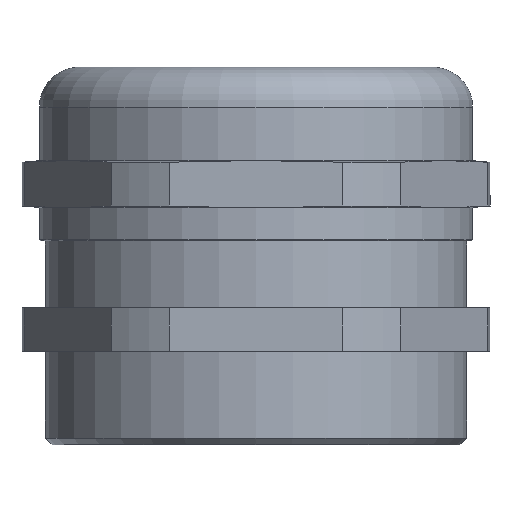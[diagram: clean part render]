
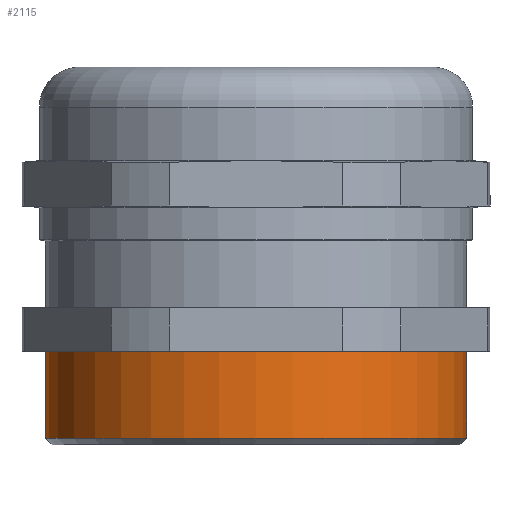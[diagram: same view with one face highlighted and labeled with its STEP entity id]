
A CAD part, left-side view. The second image highlights one B-rep face of the part: STEP entity #2115.
In plain terms, the highlighted cylindrical face has radius 31.5 mm (diameter 63 mm), a partial arc.
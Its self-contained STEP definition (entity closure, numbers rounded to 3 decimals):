
#584 = DIRECTION ( 'NONE',  ( 0., 1., 0. ) ) ;
#585 = DIRECTION ( 'NONE',  ( 0., 0., -1. ) ) ;
#586 = CARTESIAN_POINT ( 'NONE',  ( 0., 0., 0. ) ) ;
#587 = AXIS2_PLACEMENT_3D ( 'NONE', #586, #585, #584 ) ;
#589 = CYLINDRICAL_SURFACE ( 'NONE', #587, 31.5 ) ;
#590 = FACE_OUTER_BOUND ( 'NONE', #2116, .T. ) ;
#645 = DIRECTION ( 'NONE',  ( 0., 1., 0. ) ) ;
#646 = DIRECTION ( 'NONE',  ( 0., 0., -1. ) ) ;
#647 = CARTESIAN_POINT ( 'NONE',  ( 0., 0., 1. ) ) ;
#648 = AXIS2_PLACEMENT_3D ( 'NONE', #647, #646, #645 ) ;
#649 = CIRCLE ( 'NONE', #648, 31.5 ) ;
#651 = DIRECTION ( 'NONE',  ( 0., 1., 0. ) ) ;
#652 = DIRECTION ( 'NONE',  ( 0., 0., -1. ) ) ;
#653 = CARTESIAN_POINT ( 'NONE',  ( 0., 0., 14. ) ) ;
#654 = AXIS2_PLACEMENT_3D ( 'NONE', #653, #652, #651 ) ;
#655 = CIRCLE ( 'NONE', #654, 31.5 ) ;
#1425 = CARTESIAN_POINT ( 'NONE',  ( 0., 31.5, 14. ) ) ;
#1525 = LINE ( 'NONE', #1582, #1581 ) ;
#1573 = CARTESIAN_POINT ( 'NONE',  ( 0., -31.5, 14. ) ) ;
#1574 = DIRECTION ( 'NONE',  ( 0., 0., -1. ) ) ;
#1575 = VECTOR ( 'NONE', #1574, 1000. ) ;
#1576 = CARTESIAN_POINT ( 'NONE',  ( 0., -31.5, 0. ) ) ;
#1577 = LINE ( 'NONE', #1576, #1575 ) ;
#1578 = CARTESIAN_POINT ( 'NONE',  ( 0., -31.5, 1. ) ) ;
#1579 = CARTESIAN_POINT ( 'NONE',  ( 0., 31.5, 1. ) ) ;
#1580 = DIRECTION ( 'NONE',  ( 0., 0., -1. ) ) ;
#1581 = VECTOR ( 'NONE', #1580, 1000. ) ;
#1582 = CARTESIAN_POINT ( 'NONE',  ( 0., 31.5, 0. ) ) ;
#2096 = ORIENTED_EDGE ( 'NONE', *, *, #2643, .T. ) ;
#2097 = ORIENTED_EDGE ( 'NONE', *, *, #2141, .F. ) ;
#2115 = ADVANCED_FACE ( 'NONE', ( #590 ), #589, .T. ) ;
#2116 = EDGE_LOOP ( 'NONE', ( #2125, #2135, #2096, #2097 ) ) ;
#2125 = ORIENTED_EDGE ( 'NONE', *, *, #2648, .F. ) ;
#2131 = EDGE_CURVE ( 'NONE', #2650, #2574, #655, .T. ) ;
#2135 = ORIENTED_EDGE ( 'NONE', *, *, #2131, .T. ) ;
#2141 = EDGE_CURVE ( 'NONE', #2646, #2645, #649, .T. ) ;
#2574 = VERTEX_POINT ( 'NONE', #1425 ) ;
#2643 = EDGE_CURVE ( 'NONE', #2574, #2645, #1525, .T. ) ;
#2645 = VERTEX_POINT ( 'NONE', #1579 ) ;
#2646 = VERTEX_POINT ( 'NONE', #1578 ) ;
#2648 = EDGE_CURVE ( 'NONE', #2650, #2646, #1577, .T. ) ;
#2650 = VERTEX_POINT ( 'NONE', #1573 ) ;
